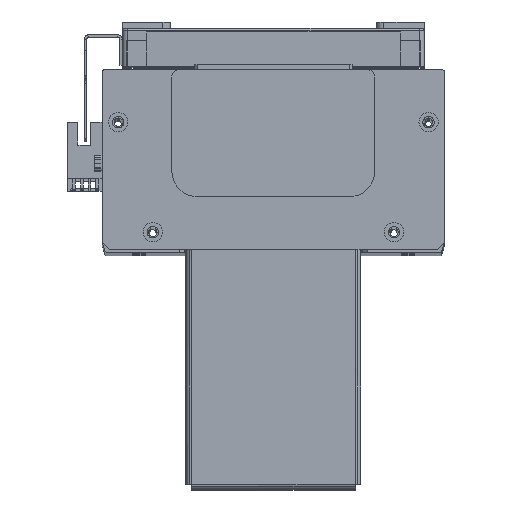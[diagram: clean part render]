
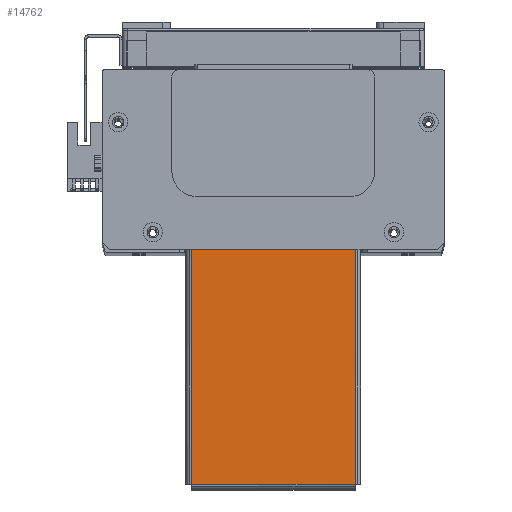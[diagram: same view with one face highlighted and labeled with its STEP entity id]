
A CAD part, top view. The second image highlights one B-rep face of the part: STEP entity #14762.
In plain terms, the highlighted planar face has unit normal (0, 0, 1) as drawn and (0, -1, 0) by its records, which use the part's own axes.
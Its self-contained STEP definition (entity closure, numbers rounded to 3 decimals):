
#5385 = VECTOR ( 'NONE', #8224, 1000. ) ;
#5396 = LINE ( 'NONE', #8257, #5580 ) ;
#5415 = LINE ( 'NONE', #8173, #5385 ) ;
#5580 = VECTOR ( 'NONE', #8259, 1000. ) ;
#5722 = LINE ( 'NONE', #8765, #5724 ) ;
#5724 = VECTOR ( 'NONE', #8767, 1000. ) ;
#5809 = VECTOR ( 'NONE', #9004, 1000. ) ;
#5837 = LINE ( 'NONE', #9061, #5809 ) ;
#8173 = CARTESIAN_POINT ( 'NONE',  ( -94.793, -1.5, -32.263 ) ) ;
#8224 = DIRECTION ( 'NONE',  ( 1., 0., 0. ) ) ;
#8257 = CARTESIAN_POINT ( 'NONE',  ( 94.793, -1.5, 32.263 ) ) ;
#8259 = DIRECTION ( 'NONE',  ( -1., 0., 0. ) ) ;
#8765 = CARTESIAN_POINT ( 'NONE',  ( -94.763, -1.5, 32.293 ) ) ;
#8767 = DIRECTION ( 'NONE',  ( 0., 0., -1. ) ) ;
#9004 = DIRECTION ( 'NONE',  ( 0., 0., -1. ) ) ;
#9061 = CARTESIAN_POINT ( 'NONE',  ( -2., -1.5, 34.5 ) ) ;
#12097 = CARTESIAN_POINT ( 'NONE',  ( -94.763, -1.5, 32.263 ) ) ;
#12161 = CARTESIAN_POINT ( 'NONE',  ( -94.763, -1.5, -32.263 ) ) ;
#12178 = CARTESIAN_POINT ( 'NONE',  ( -2., -1.5, 32.263 ) ) ;
#12276 = CARTESIAN_POINT ( 'NONE',  ( -2., -1.5, -32.263 ) ) ;
#14762 = ADVANCED_FACE ( 'NONE', ( #62370 ), #41719, .F. ) ;
#25914 = AXIS2_PLACEMENT_3D ( 'NONE', #41721, #41722, #41727 ) ;
#41719 = PLANE ( 'NONE',  #25914 ) ;
#41721 = CARTESIAN_POINT ( 'NONE',  ( 0., -1.5, 0. ) ) ;
#41722 = DIRECTION ( 'NONE',  ( 0., 1., 0. ) ) ;
#41727 = DIRECTION ( 'NONE',  ( 0., 0., 1. ) ) ;
#43687 = VERTEX_POINT ( 'NONE', #12161 ) ;
#43693 = VERTEX_POINT ( 'NONE', #12097 ) ;
#43729 = VERTEX_POINT ( 'NONE', #12178 ) ;
#43803 = VERTEX_POINT ( 'NONE', #12276 ) ;
#44109 = EDGE_LOOP ( 'NONE', ( #53934, #53891, #53937, #53880 ) ) ;
#48928 = EDGE_CURVE ( 'NONE', #43687, #43803, #5415, .T. ) ;
#48955 = EDGE_CURVE ( 'NONE', #43729, #43693, #5396, .T. ) ;
#49025 = EDGE_CURVE ( 'NONE', #43693, #43687, #5722, .T. ) ;
#49044 = EDGE_CURVE ( 'NONE', #43729, #43803, #5837, .T. ) ;
#53880 = ORIENTED_EDGE ( 'NONE', *, *, #49025, .T. ) ;
#53891 = ORIENTED_EDGE ( 'NONE', *, *, #49044, .F. ) ;
#53934 = ORIENTED_EDGE ( 'NONE', *, *, #48928, .T. ) ;
#53937 = ORIENTED_EDGE ( 'NONE', *, *, #48955, .T. ) ;
#62370 = FACE_OUTER_BOUND ( 'NONE', #44109, .T. ) ;
